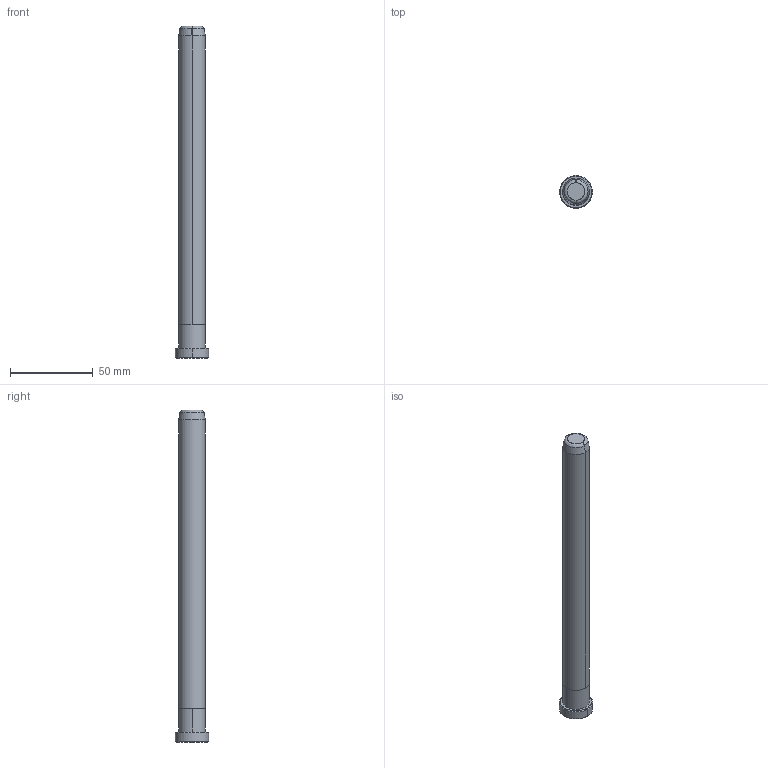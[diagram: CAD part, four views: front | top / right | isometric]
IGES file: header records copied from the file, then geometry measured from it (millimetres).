
Start section: START RECORD GO HERE.
Global section: file name: B80816200.igs; native system: DASSAULT SYSTEMES CATIA V5 R20 - www.3ds.com; preprocessor: CATIA Version 5 Release 20 ; author: Utente; organization: NB04-ASUS; date: 20200419.165219; units: millimetre
Bounding box: 20 x 20 x 200 mm (x, y, z)
Surface area: 10629 mm2 (no closed solid volume)
Topology: 0 solids, 0 shells, 20 faces, 80 edges, 80 vertices
Faces by surface type: revolution 16, plane 4
